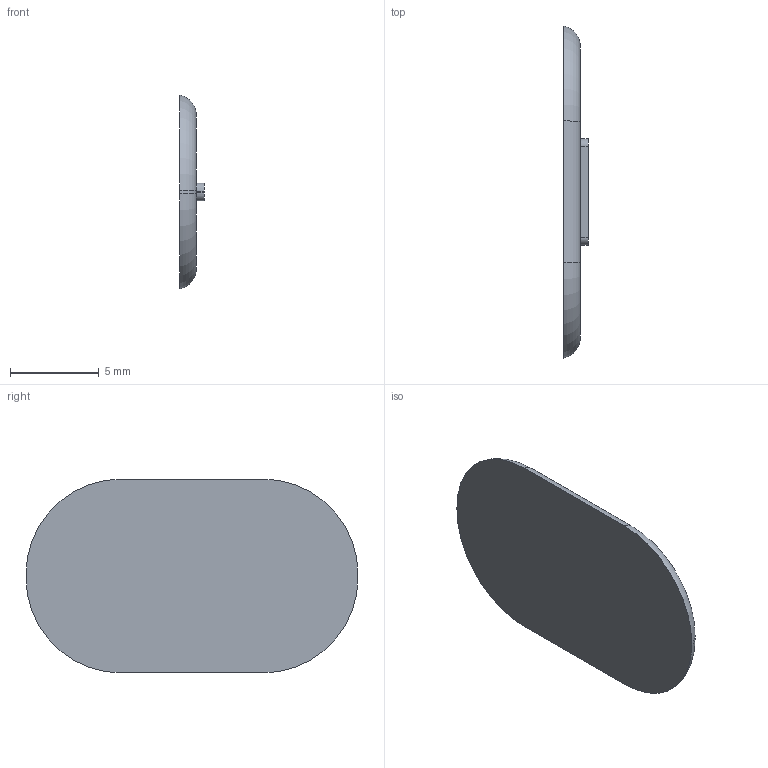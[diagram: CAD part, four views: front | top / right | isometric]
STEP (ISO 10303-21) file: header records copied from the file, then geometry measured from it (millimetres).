
FILE_DESCRIPTION(/* description */ (''),/* implementation_level */ '2;1');
FILE_NAME(/* name */ 'C27_R2_14_Volume_Down_Pewter_Cap.step',/* time_stamp */ '2026-09-10T17:48:35-07:00',/* author */ (''),/* organization */ (''),/* preprocessor_version */ 'ST-DEVELOPER v20.1',/* originating_system */ 'Autodesk Translation Framework v15.8.0.0',/* authorisation */ '');
FILE_SCHEMA (('AUTOMOTIVE_DESIGN { 1 0 10303 214 3 1 1 }'));
Length unit declared in the file: millimetre
Products named in the file (1): 2026-09-10-17-48-35-251
Bounding box: 1.4 x 18.75 x 10.95 mm (x, y, z)
Volume: 160.4 mm3; surface area: 389.3 mm2
Topology: 1 solids, 1 shells, 19 faces, 48 edges, 32 vertices
Faces by surface type: cylinder 8, plane 7, torus 4
Entity records: 619 total; most frequent: DIRECTION 112, CARTESIAN_POINT 100, ORIENTED_EDGE 96, EDGE_CURVE 48, AXIS2_PLACEMENT_3D 44, VERTEX_POINT 32, LINE 24, VECTOR 24
